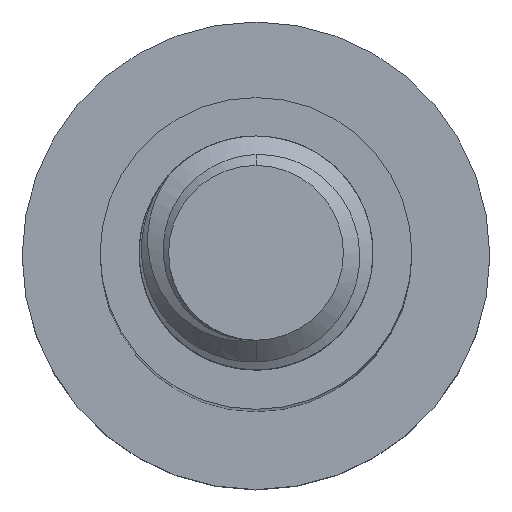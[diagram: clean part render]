
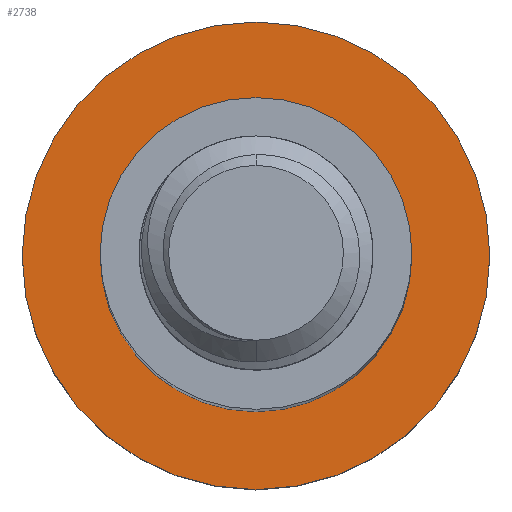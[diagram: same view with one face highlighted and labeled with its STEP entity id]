
A CAD part, top view. The second image highlights one B-rep face of the part: STEP entity #2738.
In plain terms, the highlighted planar face has unit normal (0, 0, 1).
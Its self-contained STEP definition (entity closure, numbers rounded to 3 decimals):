
#155 = FACE_BOUND ( 'NONE', #5137, .T. ) ;
#178 = CIRCLE ( 'NONE', #1851, 8. ) ;
#182 = EDGE_CURVE ( 'NONE', #3278, #2988, #2516, .T. ) ;
#509 = CARTESIAN_POINT ( 'NONE',  ( -12., 0., -70. ) ) ;
#649 = CARTESIAN_POINT ( 'NONE',  ( 0., 0., -70. ) ) ;
#677 = DIRECTION ( 'NONE',  ( -1., 0., 0. ) ) ;
#829 = DIRECTION ( 'NONE',  ( 0., 0., -1. ) ) ;
#880 = DIRECTION ( 'NONE',  ( -1., 0., 0. ) ) ;
#935 = DIRECTION ( 'NONE',  ( 0., 0., -1. ) ) ;
#1057 = ORIENTED_EDGE ( 'NONE', *, *, #5170, .T. ) ;
#1109 = CARTESIAN_POINT ( 'NONE',  ( 12., 0., -70. ) ) ;
#1186 = CIRCLE ( 'NONE', #4100, 12. ) ;
#1851 = AXIS2_PLACEMENT_3D ( 'NONE', #2475, #935, #4864 ) ;
#1905 = EDGE_CURVE ( 'NONE', #3899, #3379, #2675, .T. ) ;
#2475 = CARTESIAN_POINT ( 'NONE',  ( 0., 0., -70. ) ) ;
#2486 = DIRECTION ( 'NONE',  ( 0., 0., -1. ) ) ;
#2516 = CIRCLE ( 'NONE', #4861, 12. ) ;
#2642 = DIRECTION ( 'NONE',  ( -1., 0., 0. ) ) ;
#2675 = CIRCLE ( 'NONE', #3009, 8. ) ;
#2738 = ADVANCED_FACE ( 'NONE', ( #155, #3343 ), #2953, .F. ) ;
#2885 = ORIENTED_EDGE ( 'NONE', *, *, #182, .F. ) ;
#2953 = PLANE ( 'NONE',  #3506 ) ;
#2959 = EDGE_LOOP ( 'NONE', ( #2885, #4242 ) ) ;
#2988 = VERTEX_POINT ( 'NONE', #509 ) ;
#3009 = AXIS2_PLACEMENT_3D ( 'NONE', #4977, #4608, #2642 ) ;
#3278 = VERTEX_POINT ( 'NONE', #1109 ) ;
#3343 = FACE_OUTER_BOUND ( 'NONE', #2959, .T. ) ;
#3379 = VERTEX_POINT ( 'NONE', #4348 ) ;
#3506 = AXIS2_PLACEMENT_3D ( 'NONE', #3686, #2486, #4846 ) ;
#3686 = CARTESIAN_POINT ( 'NONE',  ( 0., 0., -70. ) ) ;
#3899 = VERTEX_POINT ( 'NONE', #4399 ) ;
#4100 = AXIS2_PLACEMENT_3D ( 'NONE', #4415, #829, #880 ) ;
#4242 = ORIENTED_EDGE ( 'NONE', *, *, #4441, .F. ) ;
#4261 = DIRECTION ( 'NONE',  ( 0., 0., -1. ) ) ;
#4348 = CARTESIAN_POINT ( 'NONE',  ( 8., 0., -70. ) ) ;
#4399 = CARTESIAN_POINT ( 'NONE',  ( -8., 0., -70. ) ) ;
#4415 = CARTESIAN_POINT ( 'NONE',  ( 0., 0., -70. ) ) ;
#4441 = EDGE_CURVE ( 'NONE', #2988, #3278, #1186, .T. ) ;
#4608 = DIRECTION ( 'NONE',  ( 0., 0., -1. ) ) ;
#4773 = ORIENTED_EDGE ( 'NONE', *, *, #1905, .T. ) ;
#4846 = DIRECTION ( 'NONE',  ( -1., 0., 0. ) ) ;
#4861 = AXIS2_PLACEMENT_3D ( 'NONE', #649, #4261, #677 ) ;
#4864 = DIRECTION ( 'NONE',  ( -1., 0., 0. ) ) ;
#4977 = CARTESIAN_POINT ( 'NONE',  ( 0., 0., -70. ) ) ;
#5137 = EDGE_LOOP ( 'NONE', ( #4773, #1057 ) ) ;
#5170 = EDGE_CURVE ( 'NONE', #3379, #3899, #178, .T. ) ;
